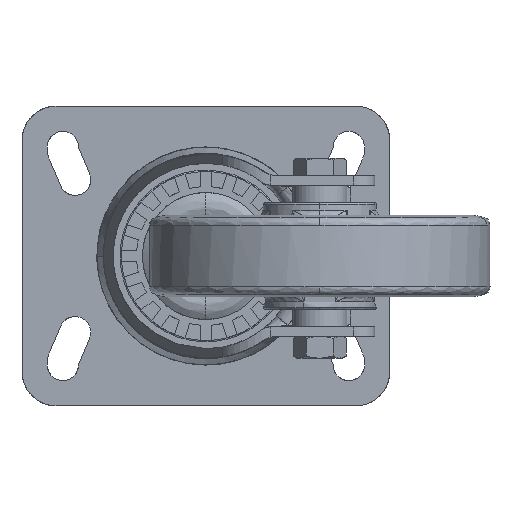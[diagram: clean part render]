
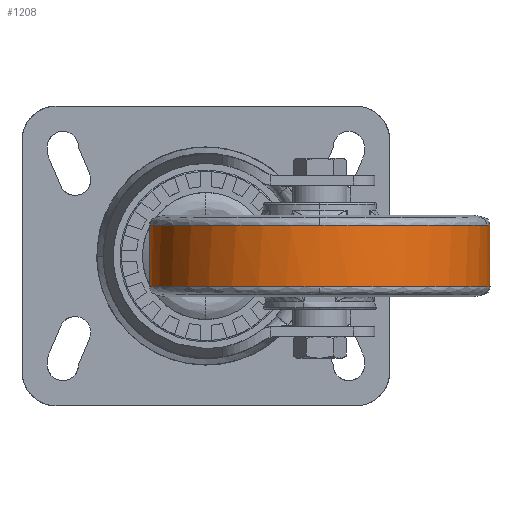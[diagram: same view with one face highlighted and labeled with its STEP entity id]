
A CAD part, front view. The second image highlights one B-rep face of the part: STEP entity #1208.
In plain terms, the highlighted cylindrical face has radius 62.5 mm (diameter 125 mm), a partial arc.
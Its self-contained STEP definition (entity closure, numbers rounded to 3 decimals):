
#619=CARTESIAN_POINT('',(-20.7,-95.,-11.337));
#620=VERTEX_POINT('',#619);
#642=CARTESIAN_POINT('',(-20.7,-95.,11.337));
#643=VERTEX_POINT('',#642);
#644=CARTESIAN_POINT('',(-20.7,-95.,-11.337));
#645=DIRECTION('',(0.0,0.0,1.0));
#646=VECTOR('',#645,22.673);
#647=LINE('',#644,#646);
#648=EDGE_CURVE('',#620,#643,#647,.T.);
#673=CARTESIAN_POINT('',(104.3,-95.,11.337));
#674=VERTEX_POINT('',#673);
#696=CARTESIAN_POINT('',(104.3,-95.,-11.337));
#697=VERTEX_POINT('',#696);
#698=CARTESIAN_POINT('',(104.3,-95.0,-11.337));
#699=DIRECTION('',(0.0,0.0,1.0));
#700=VECTOR('',#699,22.673);
#701=LINE('',#698,#700);
#702=EDGE_CURVE('',#697,#674,#701,.T.);
#890=CARTESIAN_POINT('',(41.8,-157.5,-11.337));
#891=VERTEX_POINT('',#890);
#902=CARTESIAN_POINT('',(-20.7,-95.,-11.337));
#903=CARTESIAN_POINT('',(-20.7,-99.091,-11.337));
#904=CARTESIAN_POINT('',(-20.297,-103.181,-11.337));
#905=CARTESIAN_POINT('',(-18.701,-111.205,-11.337));
#906=CARTESIAN_POINT('',(-17.508,-115.138,-11.337));
#907=CARTESIAN_POINT('',(-14.377,-122.697,-11.337));
#908=CARTESIAN_POINT('',(-12.439,-126.322,-11.337));
#909=CARTESIAN_POINT('',(-7.894,-133.124,-11.337));
#910=CARTESIAN_POINT('',(-5.287,-136.302,-11.337));
#911=CARTESIAN_POINT('',(0.498,-142.087,-11.337));
#912=CARTESIAN_POINT('',(3.676,-144.694,-11.337));
#913=CARTESIAN_POINT('',(10.478,-149.239,-11.337));
#914=CARTESIAN_POINT('',(14.103,-151.177,-11.337));
#915=CARTESIAN_POINT('',(21.662,-154.308,-11.337));
#916=CARTESIAN_POINT('',(25.595,-155.501,-11.337));
#917=CARTESIAN_POINT('',(33.619,-157.097,-11.337));
#918=CARTESIAN_POINT('',(37.709,-157.5,-11.337));
#919=CARTESIAN_POINT('',(41.8,-157.5,-11.337));
#920=B_SPLINE_CURVE_WITH_KNOTS('',3,(#902,#903,#904,#905,#906,#907,#908,#909,#910,#911,#912,#913,#914,#915,#916,#917,#918,#919),.UNSPECIFIED.,.F.,.U.,(4,2,2,2,2,2,2,2,4),(0.5,0.563,0.625,0.688,0.75,0.813,0.875,0.938,1.0),.UNSPECIFIED.);
#921=EDGE_CURVE('',#620,#891,#920,.T.);
#1100=CARTESIAN_POINT('',(41.8,-157.5,-11.337));
#1101=CARTESIAN_POINT('',(45.891,-157.5,-11.337));
#1102=CARTESIAN_POINT('',(49.981,-157.097,-11.337));
#1103=CARTESIAN_POINT('',(58.005,-155.501,-11.337));
#1104=CARTESIAN_POINT('',(61.938,-154.308,-11.337));
#1105=CARTESIAN_POINT('',(69.497,-151.177,-11.337));
#1106=CARTESIAN_POINT('',(73.122,-149.239,-11.337));
#1107=CARTESIAN_POINT('',(79.924,-144.694,-11.337));
#1108=CARTESIAN_POINT('',(83.102,-142.087,-11.337));
#1109=CARTESIAN_POINT('',(88.887,-136.302,-11.337));
#1110=CARTESIAN_POINT('',(91.494,-133.124,-11.337));
#1111=CARTESIAN_POINT('',(96.039,-126.322,-11.337));
#1112=CARTESIAN_POINT('',(97.977,-122.697,-11.337));
#1113=CARTESIAN_POINT('',(101.108,-115.138,-11.337));
#1114=CARTESIAN_POINT('',(102.301,-111.205,-11.337));
#1115=CARTESIAN_POINT('',(103.897,-103.181,-11.337));
#1116=CARTESIAN_POINT('',(104.3,-99.091,-11.337));
#1117=CARTESIAN_POINT('',(104.3,-95.,-11.337));
#1118=B_SPLINE_CURVE_WITH_KNOTS('',3,(#1100,#1101,#1102,#1103,#1104,#1105,#1106,#1107,#1108,#1109,#1110,#1111,#1112,#1113,#1114,#1115,#1116,#1117),.UNSPECIFIED.,.F.,.U.,(4,2,2,2,2,2,2,2,4),(0.0,0.063,0.125,0.188,0.25,0.313,0.375,0.438,0.5),.UNSPECIFIED.);
#1119=EDGE_CURVE('',#891,#697,#1118,.T.);
#1153=CARTESIAN_POINT('',(41.8,-95.0,-11.337));
#1154=DIRECTION('',(0.0,0.0,1.0));
#1155=DIRECTION('',(0.0,1.0,0.0));
#1156=AXIS2_PLACEMENT_3D('',#1153,#1154,#1155);
#1157=CYLINDRICAL_SURFACE('',#1156,62.5);
#1158=ORIENTED_EDGE('',*,*,#648,.F.);
#1159=ORIENTED_EDGE('',*,*,#921,.T.);
#1160=ORIENTED_EDGE('',*,*,#1119,.T.);
#1161=ORIENTED_EDGE('',*,*,#702,.T.);
#1162=CARTESIAN_POINT('',(41.8,-157.5,11.337));
#1163=VERTEX_POINT('',#1162);
#1164=CARTESIAN_POINT('',(104.3,-95.,11.337));
#1165=CARTESIAN_POINT('',(104.3,-99.091,11.337));
#1166=CARTESIAN_POINT('',(103.897,-103.181,11.337));
#1167=CARTESIAN_POINT('',(102.301,-111.205,11.337));
#1168=CARTESIAN_POINT('',(101.108,-115.138,11.337));
#1169=CARTESIAN_POINT('',(97.977,-122.697,11.337));
#1170=CARTESIAN_POINT('',(96.039,-126.322,11.337));
#1171=CARTESIAN_POINT('',(91.494,-133.124,11.337));
#1172=CARTESIAN_POINT('',(88.887,-136.302,11.337));
#1173=CARTESIAN_POINT('',(83.102,-142.087,11.337));
#1174=CARTESIAN_POINT('',(79.924,-144.694,11.337));
#1175=CARTESIAN_POINT('',(73.122,-149.239,11.337));
#1176=CARTESIAN_POINT('',(69.497,-151.177,11.337));
#1177=CARTESIAN_POINT('',(61.938,-154.308,11.337));
#1178=CARTESIAN_POINT('',(58.005,-155.501,11.337));
#1179=CARTESIAN_POINT('',(49.981,-157.097,11.337));
#1180=CARTESIAN_POINT('',(45.891,-157.5,11.337));
#1181=CARTESIAN_POINT('',(41.8,-157.5,11.337));
#1182=B_SPLINE_CURVE_WITH_KNOTS('',3,(#1164,#1165,#1166,#1167,#1168,#1169,#1170,#1171,#1172,#1173,#1174,#1175,#1176,#1177,#1178,#1179,#1180,#1181),.UNSPECIFIED.,.F.,.U.,(4,2,2,2,2,2,2,2,4),(0.5,0.563,0.625,0.688,0.75,0.813,0.875,0.938,1.0),.UNSPECIFIED.);
#1183=EDGE_CURVE('',#674,#1163,#1182,.T.);
#1184=ORIENTED_EDGE('',*,*,#1183,.T.);
#1185=CARTESIAN_POINT('',(41.8,-157.5,11.337));
#1186=CARTESIAN_POINT('',(37.709,-157.5,11.337));
#1187=CARTESIAN_POINT('',(33.619,-157.097,11.337));
#1188=CARTESIAN_POINT('',(25.595,-155.501,11.337));
#1189=CARTESIAN_POINT('',(21.662,-154.308,11.337));
#1190=CARTESIAN_POINT('',(14.103,-151.177,11.337));
#1191=CARTESIAN_POINT('',(10.478,-149.239,11.337));
#1192=CARTESIAN_POINT('',(3.676,-144.694,11.337));
#1193=CARTESIAN_POINT('',(0.498,-142.087,11.337));
#1194=CARTESIAN_POINT('',(-5.287,-136.302,11.337));
#1195=CARTESIAN_POINT('',(-7.894,-133.124,11.337));
#1196=CARTESIAN_POINT('',(-12.439,-126.322,11.337));
#1197=CARTESIAN_POINT('',(-14.377,-122.697,11.337));
#1198=CARTESIAN_POINT('',(-17.508,-115.138,11.337));
#1199=CARTESIAN_POINT('',(-18.701,-111.205,11.337));
#1200=CARTESIAN_POINT('',(-20.297,-103.181,11.337));
#1201=CARTESIAN_POINT('',(-20.7,-99.091,11.337));
#1202=CARTESIAN_POINT('',(-20.7,-95.,11.337));
#1203=B_SPLINE_CURVE_WITH_KNOTS('',3,(#1185,#1186,#1187,#1188,#1189,#1190,#1191,#1192,#1193,#1194,#1195,#1196,#1197,#1198,#1199,#1200,#1201,#1202),.UNSPECIFIED.,.F.,.U.,(4,2,2,2,2,2,2,2,4),(0.0,0.063,0.125,0.188,0.25,0.313,0.375,0.438,0.5),.UNSPECIFIED.);
#1204=EDGE_CURVE('',#1163,#643,#1203,.T.);
#1205=ORIENTED_EDGE('',*,*,#1204,.T.);
#1206=EDGE_LOOP('',(#1158,#1159,#1160,#1161,#1184,#1205));
#1207=FACE_OUTER_BOUND('',#1206,.T.);
#1208=ADVANCED_FACE('',(#1207),#1157,.T.);
